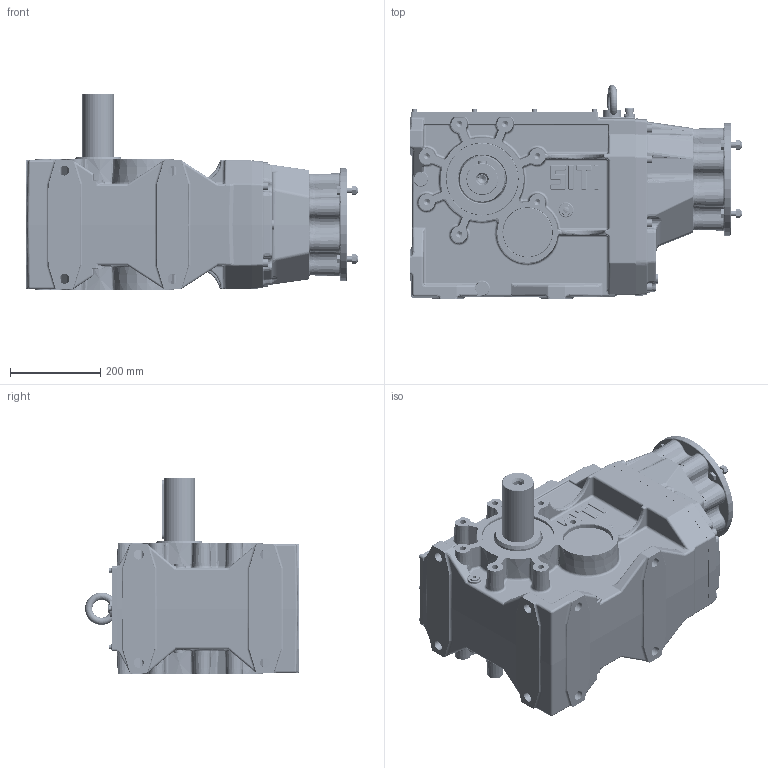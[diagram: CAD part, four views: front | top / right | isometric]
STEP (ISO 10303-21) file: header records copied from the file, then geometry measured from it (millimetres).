
FILE_DESCRIPTION((''),'2;1');
FILE_NAME('C:\Users\m.piscopiello.SITIRIDUTTORI\Desktop\3D x SITO\MBHGC 140 PAM 100-112\MBHGC_140 MS-B GR 100-112 B5.stp','2013-05-28T12:13:48',('m.piscopiello'),(''),'Autodesk Inventor 2012','Autodesk Inventor 2012','');
FILE_SCHEMA(('CONFIG_CONTROL_DESIGN'));
Length unit declared in the file: millimetre
Products named in the file (1): MBHGC_140 MS-B GR 100-112 B5
Bounding box: 736 x 473.94 x 435 mm (x, y, z)
Volume: 20140189.3 mm3; surface area: 2863401.7 mm2
Topology: 61 solids, 63 shells, 4371 faces, 10400 edges, 6174 vertices
Faces by surface type: cylinder 1216, plane 1196, bspline 908, torus 464, cone 437, sphere 150
Full cylindrical faces by diameter (mm): 2 x2, 3.15 x2, 3.5 x2, 4.917 x10, 6 x20, 6.4 x10, 6.647 x1, 7 x10, 8 x1, 10 x10, 10.106 x8, 12 x46, 12.5 x12, 13 x16, 13.835 x15, 14 x4, 14.95 x2, 16 x1, 16.6 x6, 17 x1, 17.294 x3, 17.835 x1, 18 x16, 19.5 x1, 20.5 x16, 21 x1, 22 x9, 25 x1, 26 x1, 30 x3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
Entity records: 172748 total; most frequent: CARTESIAN_POINT 75236, ORIENTED_EDGE 19078, DIRECTION 18810, EDGE_CURVE 9539, AXIS2_PLACEMENT_3D 7937, VERTEX_POINT 5957, EDGE_LOOP 5162, STYLED_ITEM 4430
